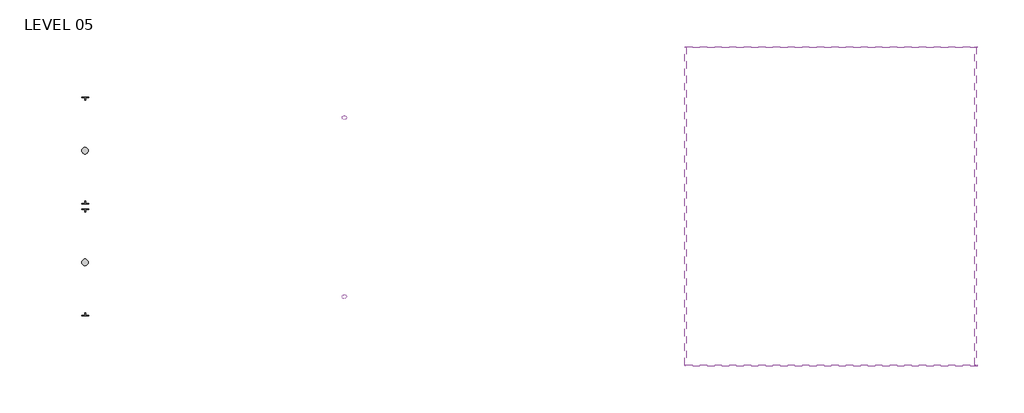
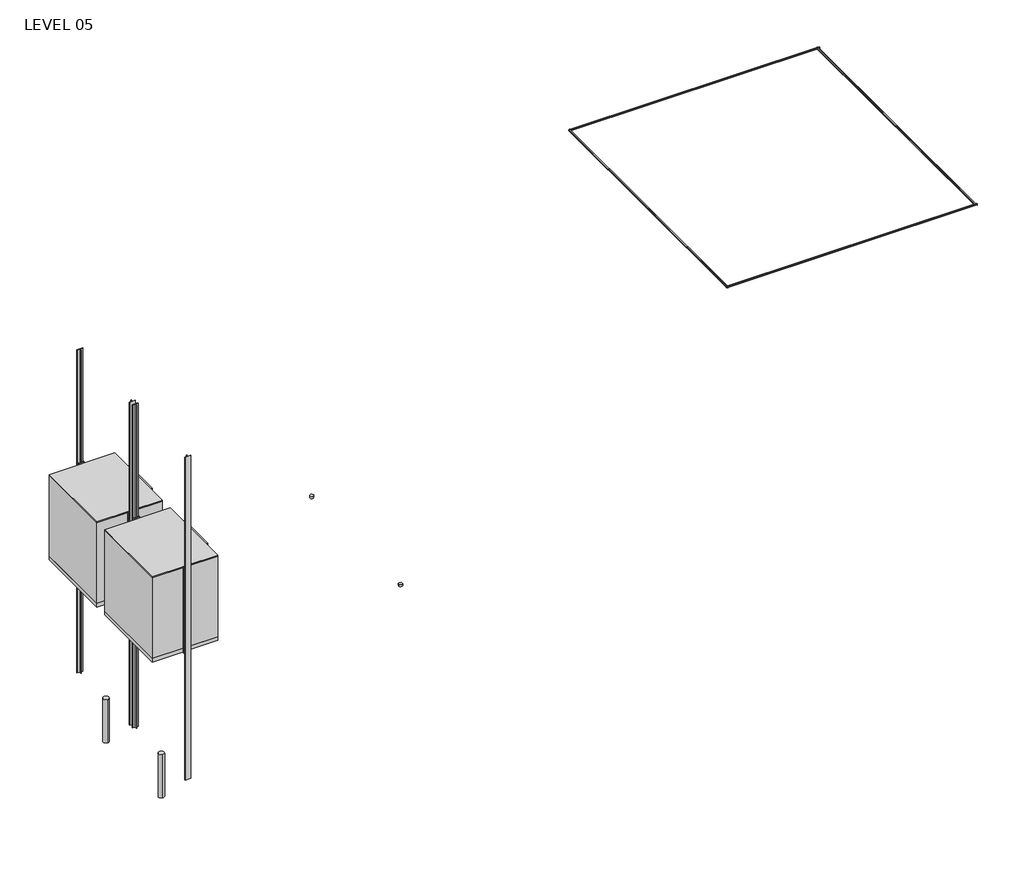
# One storey: 4 light fixtures, 4 proxies.
"""IFC4 building model written with IfcOpenShell, lengths in millimetres."""

from ifc_helpers import new_model, si_unit, origin, place, context, project, spatial, transform, mapped, element, save
from components import elevator_cab_generic_3000_lbs_095eaf7b, elevator_cab_generic_3000_lbs_83545170, junction_box_ceiling_mounted_8cef4fca, light_fixture_22_length_926c026d, light_fixture_24_length_67d3ab09

model = new_model("IFC4")

# Units and contexts
model_context = context("Model", 3, world=origin())
ifc_project = project(units=[si_unit("LENGTHUNIT", "METRE", prefix="MILLI")], contexts=[model_context])

# Site, building, storey
site = spatial("IfcSite", under=ifc_project)
building = spatial("IfcBuilding", under=site)
storey = spatial("IfcBuildingStorey", under=building, Name="LEVEL 05", Elevation=14097.0)

# Proxies
placement = place(None, origin())
elevator_cab_generic_3000_lbs_shape = elevator_cab_generic_3000_lbs_095eaf7b(model_context)
element("IfcBuildingElementProxy", 1, Name="Elevator Cab - Generic : 3000 lbs", ObjectType="Elevator Cab - Generic : 3000 lbs", at=placement, inside=storey, context=model_context, shape_type="MappedRepresentation", body=[
    mapped(elevator_cab_generic_3000_lbs_shape, transform((-36073.8496336, -11473.6600286, 14097.0), x_axis=(0.0, -1.0, 0.0), y_axis=(1.0, 0.0, 0.0), z_axis=(0.0, 0.0, 1.0))),
])
elevator_cab_generic_3000_lbs_2_shape = elevator_cab_generic_3000_lbs_83545170(model_context)
element("IfcBuildingElementProxy", 2, Name="Elevator Cab - Generic : 3000 lbs", ObjectType="Elevator Cab - Generic : 3000 lbs", at=placement, inside=storey, context=model_context, shape_type="MappedRepresentation", body=[
    mapped(elevator_cab_generic_3000_lbs_2_shape, transform((-36073.8496336, -14058.5602405, 14097.0), x_axis=(0.0, 1.0, 0.0), y_axis=(-1.0, 0.0, 0.0), z_axis=(0.0, 0.0, 1.0))),
])
junction_box_ceiling_mounted_shape = junction_box_ceiling_mounted_8cef4fca(model_context)
element("IfcBuildingElementProxy", 3, Name="Junction Box_Ceiling Mounted : Ceiling & Floor Plan Rep", ObjectType="Junction Box_Ceiling Mounted : Ceiling & Floor Plan Rep", at=placement, inside=storey, context=model_context, shape_type="MappedRepresentation", body=[
    mapped(junction_box_ceiling_mounted_shape, transform((-30258.9349596, -14832.8188303, 14782.8), x_axis=(1.0, 0.0, 0.0), y_axis=(0.0, 1.0, 0.0), z_axis=(0.0, 0.0, 1.0))),
])
element("IfcBuildingElementProxy", 4, Name="Junction Box_Ceiling Mounted : Ceiling & Floor Plan Rep", ObjectType="Junction Box_Ceiling Mounted : Ceiling & Floor Plan Rep", at=placement, inside=storey, context=model_context, shape_type="MappedRepresentation", body=[
    mapped(junction_box_ceiling_mounted_shape, transform((-30258.9349596, -10718.0188303, 14782.8), x_axis=(1.0, 0.0, 0.0), y_axis=(0.0, 1.0, 0.0), z_axis=(0.0, 0.0, 1.0))),
])

# Light fixtures
light_fixture_22_length_shape = light_fixture_22_length_926c026d(model_context)
element("IfcLightFixture", 5, ObjectType="63_PHILIPS_DALI Square Track_RCS750 5C6 L4000 : 22' Length", at=placement, inside=storey, context=model_context, shape_type="MappedRepresentation", body=[
    mapped(light_fixture_22_length_shape, transform((-19077.5781198, -16420.2415585, 23926.8), x_axis=(0.0, -1.0, 0.0), y_axis=(1.0, 0.0, 0.0), z_axis=(0.0, 0.0, 1.0))),
])
element("IfcLightFixture", 6, ObjectType="63_PHILIPS_DALI Square Track_RCS750 5C6 L4000 : 22' Length", at=placement, inside=storey, context=model_context, shape_type="MappedRepresentation", body=[
    mapped(light_fixture_22_length_shape, transform((-19077.5781198, -9105.0415585, 23926.8), x_axis=(0.0, -1.0, 0.0), y_axis=(1.0, 0.0, 0.0), z_axis=(0.0, 0.0, 1.0))),
])
light_fixture_24_length_shape = light_fixture_24_length_67d3ab09(model_context)
element("IfcLightFixture", 7, ObjectType="63_PHILIPS_DALI Square Track_RCS750 5C6 L4000 : 24' Length", at=placement, inside=storey, context=model_context, shape_type="MappedRepresentation", body=[
    mapped(light_fixture_24_length_shape, transform((-22424.3781198, -12754.7422198, 23926.8), x_axis=(1.0, 0.0, 0.0), y_axis=(0.0, 1.0, 0.0), z_axis=(0.0, 0.0, 1.0))),
])
element("IfcLightFixture", 8, ObjectType="63_PHILIPS_DALI Square Track_RCS750 5C6 L4000 : 24' Length", at=placement, inside=storey, context=model_context, shape_type="MappedRepresentation", body=[
    mapped(light_fixture_24_length_shape, transform((-15769.5781198, -12754.7422198, 23926.8), x_axis=(1.0, 0.0, 0.0), y_axis=(0.0, 1.0, 0.0), z_axis=(0.0, 0.0, 1.0))),
])

save(model, "model.ifc")
